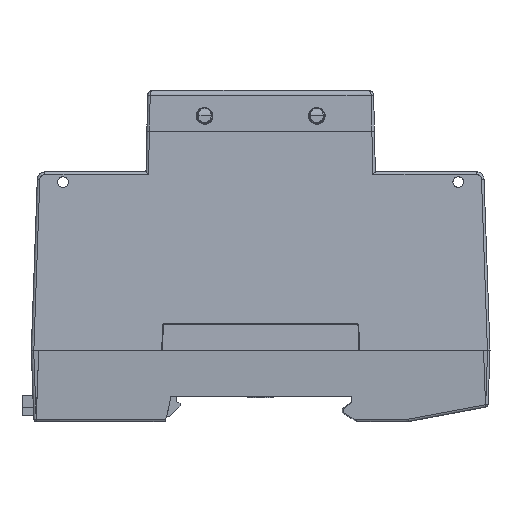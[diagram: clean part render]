
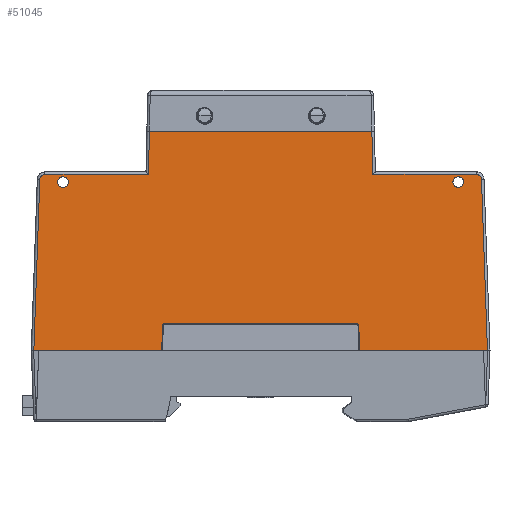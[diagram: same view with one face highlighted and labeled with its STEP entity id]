
A CAD part, left-side view. The second image highlights one B-rep face of the part: STEP entity #51045.
In plain terms, the highlighted planar face has unit normal (-0.999, 0, 0.035) as drawn and (0.999, 0, 0.035) by its records, which use the part's own axes.
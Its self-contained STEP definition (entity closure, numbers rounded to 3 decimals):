
#199=FACE_BOUND('',#6427,.T.);
#200=FACE_BOUND('',#6428,.T.);
#2247=ELLIPSE('',#54293,0.3,0.3);
#2248=ELLIPSE('',#54295,0.3,0.3);
#2249=ELLIPSE('',#54296,1.051,1.05);
#2250=ELLIPSE('',#54297,1.051,1.05);
#2560=B_SPLINE_CURVE_WITH_KNOTS('',3,(#75954,#75955,#75956,#75957,#75958,
#75959,#75960),.UNSPECIFIED.,.F.,.F.,(4,3,4),(0.,1.104,1.932),
 .UNSPECIFIED.);
#2561=B_SPLINE_CURVE_WITH_KNOTS('',3,(#75972,#75973,#75974,#75975,#75976,
#75977,#75978),.UNSPECIFIED.,.F.,.F.,(4,3,4),(0.,0.828,1.932),
 .UNSPECIFIED.);
#3626=FACE_OUTER_BOUND('',#6426,.T.);
#6426=EDGE_LOOP('',(#35810,#35811,#35812,#35813,#35814,#35815,#35816,#35817,
#35818,#35819,#35820,#35821,#35822,#35823,#35824,#35825));
#6427=EDGE_LOOP('',(#35826));
#6428=EDGE_LOOP('',(#35827));
#10051=LINE('',#74828,#15565);
#10371=LINE('',#75926,#15885);
#10382=LINE('',#75950,#15896);
#10383=LINE('',#75952,#15897);
#10384=LINE('',#75962,#15898);
#10385=LINE('',#75964,#15899);
#10386=LINE('',#75966,#15900);
#10387=LINE('',#75968,#15901);
#10388=LINE('',#75970,#15902);
#10389=LINE('',#75980,#15903);
#10390=LINE('',#75981,#15904);
#10391=LINE('',#75984,#15905);
#15565=VECTOR('',#59972,10.);
#15885=VECTOR('',#60640,10.);
#15896=VECTOR('',#60665,10.);
#15897=VECTOR('',#60666,10.);
#15898=VECTOR('',#60667,10.);
#15899=VECTOR('',#60668,10.);
#15900=VECTOR('',#60669,10.);
#15901=VECTOR('',#60670,10.);
#15902=VECTOR('',#60671,10.);
#15903=VECTOR('',#60672,10.);
#15904=VECTOR('',#60673,10.);
#15905=VECTOR('',#60676,10.);
#20919=VERTEX_POINT('',#74825);
#20920=VERTEX_POINT('',#74827);
#21214=VERTEX_POINT('',#75922);
#21216=VERTEX_POINT('',#75925);
#21221=VERTEX_POINT('',#75948);
#21222=VERTEX_POINT('',#75949);
#21223=VERTEX_POINT('',#75951);
#21224=VERTEX_POINT('',#75953);
#21225=VERTEX_POINT('',#75961);
#21226=VERTEX_POINT('',#75963);
#21227=VERTEX_POINT('',#75965);
#21228=VERTEX_POINT('',#75967);
#21229=VERTEX_POINT('',#75969);
#21230=VERTEX_POINT('',#75971);
#21231=VERTEX_POINT('',#75979);
#21232=VERTEX_POINT('',#75982);
#21233=VERTEX_POINT('',#75985);
#21234=VERTEX_POINT('',#75987);
#26319=EDGE_CURVE('',#20919,#20920,#10051,.T.);
#26734=EDGE_CURVE('',#21216,#21214,#10371,.T.);
#26745=EDGE_CURVE('',#21216,#20919,#2247,.T.);
#26746=EDGE_CURVE('',#21221,#21222,#10382,.T.);
#26747=EDGE_CURVE('',#21223,#21222,#10383,.T.);
#26748=EDGE_CURVE('',#21224,#21223,#2560,.T.);
#26749=EDGE_CURVE('',#21225,#21224,#10384,.T.);
#26750=EDGE_CURVE('',#21226,#21225,#10385,.T.);
#26751=EDGE_CURVE('',#21227,#21226,#10386,.T.);
#26752=EDGE_CURVE('',#21228,#21227,#10387,.T.);
#26753=EDGE_CURVE('',#21229,#21228,#10388,.T.);
#26754=EDGE_CURVE('',#21230,#21229,#2561,.T.);
#26755=EDGE_CURVE('',#21231,#21230,#10389,.T.);
#26756=EDGE_CURVE('',#21231,#20920,#10390,.T.);
#26757=EDGE_CURVE('',#21232,#21214,#2248,.T.);
#26758=EDGE_CURVE('',#21221,#21232,#10391,.T.);
#26759=EDGE_CURVE('',#21233,#21233,#2249,.T.);
#26760=EDGE_CURVE('',#21234,#21234,#2250,.T.);
#35810=ORIENTED_EDGE('',*,*,#26746,.T.);
#35811=ORIENTED_EDGE('',*,*,#26747,.F.);
#35812=ORIENTED_EDGE('',*,*,#26748,.F.);
#35813=ORIENTED_EDGE('',*,*,#26749,.F.);
#35814=ORIENTED_EDGE('',*,*,#26750,.F.);
#35815=ORIENTED_EDGE('',*,*,#26751,.F.);
#35816=ORIENTED_EDGE('',*,*,#26752,.F.);
#35817=ORIENTED_EDGE('',*,*,#26753,.F.);
#35818=ORIENTED_EDGE('',*,*,#26754,.F.);
#35819=ORIENTED_EDGE('',*,*,#26755,.F.);
#35820=ORIENTED_EDGE('',*,*,#26756,.T.);
#35821=ORIENTED_EDGE('',*,*,#26319,.F.);
#35822=ORIENTED_EDGE('',*,*,#26745,.F.);
#35823=ORIENTED_EDGE('',*,*,#26734,.T.);
#35824=ORIENTED_EDGE('',*,*,#26757,.F.);
#35825=ORIENTED_EDGE('',*,*,#26758,.F.);
#35826=ORIENTED_EDGE('',*,*,#26759,.T.);
#35827=ORIENTED_EDGE('',*,*,#26760,.T.);
#47719=PLANE('',#54294);
#51045=ADVANCED_FACE('',(#3626,#199,#200),#47719,.T.);
#54293=AXIS2_PLACEMENT_3D('',#75946,#60661,#60662);
#54294=AXIS2_PLACEMENT_3D('',#75947,#60663,#60664);
#54295=AXIS2_PLACEMENT_3D('',#75983,#60674,#60675);
#54296=AXIS2_PLACEMENT_3D('',#75986,#60677,#60678);
#54297=AXIS2_PLACEMENT_3D('',#75988,#60679,#60680);
#59972=DIRECTION('',(0.035,-0.029,-0.999));
#60640=DIRECTION('',(0.,1.,0.));
#60661=DIRECTION('center_axis',(0.999,0.,
0.035));
#60662=DIRECTION('ref_axis',(-0.035,0.,0.999));
#60663=DIRECTION('center_axis',(0.999,0.,
0.035));
#60664=DIRECTION('ref_axis',(0.,1.,0.));
#60665=DIRECTION('',(0.,1.,0.));
#60666=DIRECTION('',(0.035,0.035,-0.999));
#60667=DIRECTION('',(0.,1.,0.));
#60668=DIRECTION('',(0.035,0.022,-0.999));
#60669=DIRECTION('',(0.,1.,0.));
#60670=DIRECTION('',(-0.035,0.022,0.999));
#60671=DIRECTION('',(0.,1.,0.));
#60672=DIRECTION('',(-0.035,0.035,0.999));
#60673=DIRECTION('',(0.,1.,0.));
#60674=DIRECTION('center_axis',(0.999,0.,
0.035));
#60675=DIRECTION('ref_axis',(0.035,0.,-0.999));
#60676=DIRECTION('',(-0.035,-0.029,0.999));
#60677=DIRECTION('center_axis',(-0.999,0.,
-0.035));
#60678=DIRECTION('ref_axis',(0.035,0.,-0.999));
#60679=DIRECTION('center_axis',(-0.999,0.,
-0.035));
#60680=DIRECTION('ref_axis',(0.035,0.,-0.999));
#74825=CARTESIAN_POINT('',(71.029,25.742,4.909));
#74827=CARTESIAN_POINT('',(71.2,25.6,0.));
#74828=CARTESIAN_POINT('',(71.029,25.742,4.909));
#75922=CARTESIAN_POINT('',(71.018,63.959,5.2));
#75925=CARTESIAN_POINT('',(71.018,26.041,5.2));
#75926=CARTESIAN_POINT('',(71.018,26.041,5.2));
#75946=CARTESIAN_POINT('Origin',(71.029,26.041,4.9));
#75947=CARTESIAN_POINT('Origin',(71.2,0.,0.));
#75948=CARTESIAN_POINT('',(71.2,64.4,0.));
#75949=CARTESIAN_POINT('',(71.2,89.5,0.));
#75950=CARTESIAN_POINT('',(71.2,64.4,0.));
#75951=CARTESIAN_POINT('',(70.028,88.329,33.552));
#75952=CARTESIAN_POINT('',(70.028,88.329,33.552));
#75953=CARTESIAN_POINT('',(69.995,87.329,34.517));
#75954=CARTESIAN_POINT('Ctrl Pts',(69.995,87.329,34.517));
#75955=CARTESIAN_POINT('Ctrl Pts',(69.995,87.622,34.517));
#75956=CARTESIAN_POINT('Ctrl Pts',(69.999,87.911,34.381));
#75957=CARTESIAN_POINT('Ctrl Pts',(70.007,88.098,34.157));
#75958=CARTESIAN_POINT('Ctrl Pts',(70.013,88.239,33.989));
#75959=CARTESIAN_POINT('Ctrl Pts',(70.021,88.321,33.772));
#75960=CARTESIAN_POINT('Ctrl Pts',(70.028,88.329,33.552));
#75961=CARTESIAN_POINT('',(69.995,67.011,34.517));
#75962=CARTESIAN_POINT('',(69.995,67.011,34.517));
#75963=CARTESIAN_POINT('',(69.698,66.826,43.));
#75964=CARTESIAN_POINT('',(69.698,66.826,43.));
#75965=CARTESIAN_POINT('',(69.698,23.174,43.));
#75966=CARTESIAN_POINT('',(69.698,23.174,43.));
#75967=CARTESIAN_POINT('',(69.995,22.989,34.517));
#75968=CARTESIAN_POINT('',(69.995,22.989,34.517));
#75969=CARTESIAN_POINT('',(69.995,2.671,34.517));
#75970=CARTESIAN_POINT('',(69.995,2.671,34.517));
#75971=CARTESIAN_POINT('',(70.028,1.671,33.552));
#75972=CARTESIAN_POINT('Ctrl Pts',(70.028,1.671,33.552));
#75973=CARTESIAN_POINT('Ctrl Pts',(70.021,1.679,33.772));
#75974=CARTESIAN_POINT('Ctrl Pts',(70.013,1.761,33.989));
#75975=CARTESIAN_POINT('Ctrl Pts',(70.007,1.902,34.157));
#75976=CARTESIAN_POINT('Ctrl Pts',(69.999,2.089,34.381));
#75977=CARTESIAN_POINT('Ctrl Pts',(69.995,2.378,34.517));
#75978=CARTESIAN_POINT('Ctrl Pts',(69.995,2.671,34.517));
#75979=CARTESIAN_POINT('',(71.2,0.5,0.));
#75980=CARTESIAN_POINT('',(71.2,0.5,0.));
#75981=CARTESIAN_POINT('',(71.2,0.5,0.));
#75982=CARTESIAN_POINT('',(71.029,64.258,4.909));
#75983=CARTESIAN_POINT('Origin',(71.029,63.959,4.9));
#75984=CARTESIAN_POINT('',(71.2,64.4,0.));
#75985=CARTESIAN_POINT('',(70.011,83.775,34.05));
#75986=CARTESIAN_POINT('Origin',(70.048,83.775,33.));
#75987=CARTESIAN_POINT('',(70.011,6.225,34.05));
#75988=CARTESIAN_POINT('Origin',(70.048,6.225,33.));
